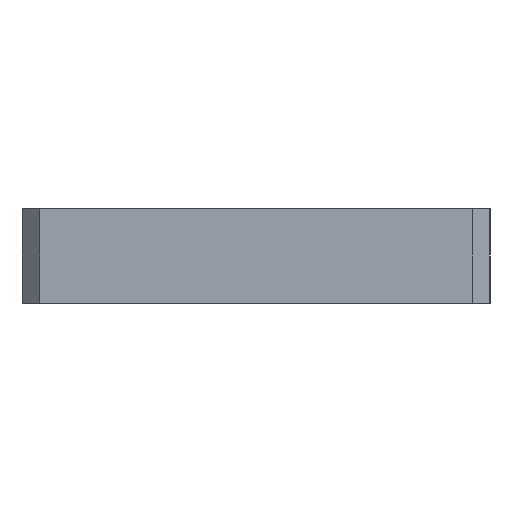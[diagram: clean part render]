
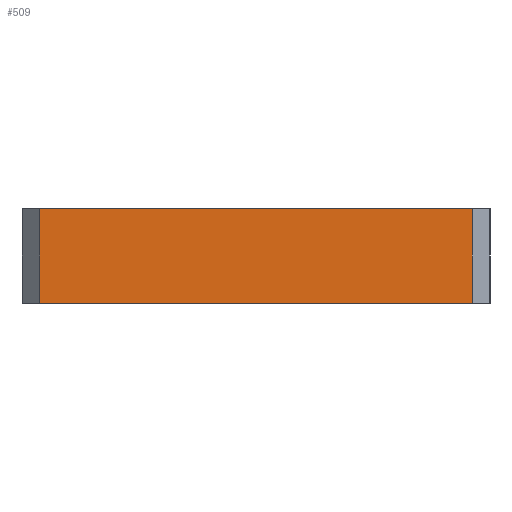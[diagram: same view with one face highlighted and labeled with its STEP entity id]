
A CAD part, left-side view. The second image highlights one B-rep face of the part: STEP entity #509.
In plain terms, the highlighted planar face has unit normal (-1, 0, 0).
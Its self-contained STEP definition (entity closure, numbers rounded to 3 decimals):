
#29 = LINE ( 'NONE', #1544, #1125 ) ;
#43 = VECTOR ( 'NONE', #292, 1000. ) ;
#49 = VECTOR ( 'NONE', #1492, 1000. ) ;
#113 = VERTEX_POINT ( 'NONE', #960 ) ;
#149 = EDGE_LOOP ( 'NONE', ( #981, #265, #802, #867 ) ) ;
#152 = LINE ( 'NONE', #1646, #49 ) ;
#156 = EDGE_CURVE ( 'NONE', #220, #832, #29, .T. ) ;
#220 = VERTEX_POINT ( 'NONE', #488 ) ;
#265 = ORIENTED_EDGE ( 'NONE', *, *, #156, .F. ) ;
#292 = DIRECTION ( 'NONE',  ( 0., -1., 0. ) ) ;
#305 = DIRECTION ( 'NONE',  ( 0., 0., -1. ) ) ;
#332 = VECTOR ( 'NONE', #1004, 1000. ) ;
#466 = CARTESIAN_POINT ( 'NONE',  ( -34.5, 5.7, 0. ) ) ;
#473 = DIRECTION ( 'NONE',  ( 1., 0., 0. ) ) ;
#488 = CARTESIAN_POINT ( 'NONE',  ( -34.5, -31., 8. ) ) ;
#509 = ADVANCED_FACE ( 'NONE', ( #1212 ), #825, .F. ) ;
#588 = CARTESIAN_POINT ( 'NONE',  ( -34.5, -31., 0. ) ) ;
#643 = LINE ( 'NONE', #466, #43 ) ;
#655 = CARTESIAN_POINT ( 'NONE',  ( -34.5, 5.7, 8. ) ) ;
#802 = ORIENTED_EDGE ( 'NONE', *, *, #1404, .F. ) ;
#825 = PLANE ( 'NONE',  #1266 ) ;
#832 = VERTEX_POINT ( 'NONE', #588 ) ;
#867 = ORIENTED_EDGE ( 'NONE', *, *, #1181, .T. ) ;
#960 = CARTESIAN_POINT ( 'NONE',  ( -34.5, 5.7, 8. ) ) ;
#981 = ORIENTED_EDGE ( 'NONE', *, *, #1412, .T. ) ;
#1004 = DIRECTION ( 'NONE',  ( 0., 0., -1. ) ) ;
#1125 = VECTOR ( 'NONE', #1384, 1000. ) ;
#1177 = CARTESIAN_POINT ( 'NONE',  ( -34.5, 5.7, 8. ) ) ;
#1181 = EDGE_CURVE ( 'NONE', #113, #1671, #1346, .T. ) ;
#1212 = FACE_OUTER_BOUND ( 'NONE', #149, .T. ) ;
#1266 = AXIS2_PLACEMENT_3D ( 'NONE', #655, #473, #305 ) ;
#1346 = LINE ( 'NONE', #1177, #332 ) ;
#1352 = CARTESIAN_POINT ( 'NONE',  ( -34.5, 5.7, 0. ) ) ;
#1384 = DIRECTION ( 'NONE',  ( 0., 0., -1. ) ) ;
#1404 = EDGE_CURVE ( 'NONE', #113, #220, #152, .T. ) ;
#1412 = EDGE_CURVE ( 'NONE', #1671, #832, #643, .T. ) ;
#1492 = DIRECTION ( 'NONE',  ( 0., -1., 0. ) ) ;
#1544 = CARTESIAN_POINT ( 'NONE',  ( -34.5, -31., 8. ) ) ;
#1646 = CARTESIAN_POINT ( 'NONE',  ( -34.5, 5.7, 8. ) ) ;
#1671 = VERTEX_POINT ( 'NONE', #1352 ) ;
